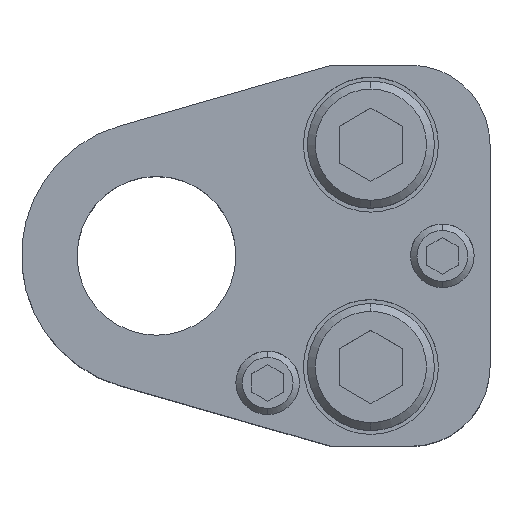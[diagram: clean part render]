
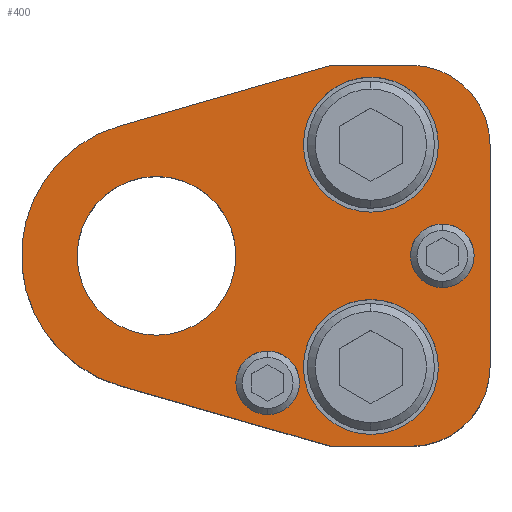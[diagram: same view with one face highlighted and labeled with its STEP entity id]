
A CAD part, top view. The second image highlights one B-rep face of the part: STEP entity #400.
In plain terms, the highlighted planar face has unit normal (0, 0, 1).
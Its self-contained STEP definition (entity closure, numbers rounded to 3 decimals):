
#192=FACE_BOUND('',#715,.T.);
#193=FACE_BOUND('',#716,.T.);
#194=FACE_BOUND('',#717,.T.);
#195=FACE_BOUND('',#718,.T.);
#196=FACE_BOUND('',#719,.T.);
#197=FACE_BOUND('',#720,.T.);
#246=CIRCLE('',#2264,17.);
#248=CIRCLE('',#2269,10.);
#250=CIRCLE('',#2273,10.);
#252=CIRCLE('',#2278,4.);
#254=CIRCLE('',#2281,4.);
#256=CIRCLE('',#2284,4.);
#258=CIRCLE('',#2287,4.);
#268=CIRCLE('',#2302,8.5);
#269=CIRCLE('',#2303,8.5);
#270=CIRCLE('',#2304,8.5);
#271=CIRCLE('',#2305,8.5);
#272=CIRCLE('',#2306,10.);
#273=CIRCLE('',#2307,10.);
#400=ADVANCED_FACE('',(#192,#193,#194,#195,#196,#197),#512,.T.);
#512=PLANE('',#2308);
#715=EDGE_LOOP('',(#1019,#1020,#1021,#1022,#1023,#1024,#1025,#1026));
#716=EDGE_LOOP('',(#1027,#1028));
#717=EDGE_LOOP('',(#1029,#1030));
#718=EDGE_LOOP('',(#1031,#1032));
#719=EDGE_LOOP('',(#1033,#1034));
#720=EDGE_LOOP('',(#1035,#1036));
#1019=ORIENTED_EDGE('',*,*,#1662,.T.);
#1020=ORIENTED_EDGE('',*,*,#1666,.T.);
#1021=ORIENTED_EDGE('',*,*,#1669,.T.);
#1022=ORIENTED_EDGE('',*,*,#1672,.T.);
#1023=ORIENTED_EDGE('',*,*,#1675,.T.);
#1024=ORIENTED_EDGE('',*,*,#1678,.T.);
#1025=ORIENTED_EDGE('',*,*,#1681,.T.);
#1026=ORIENTED_EDGE('',*,*,#1684,.T.);
#1027=ORIENTED_EDGE('',*,*,#1709,.F.);
#1028=ORIENTED_EDGE('',*,*,#1710,.F.);
#1029=ORIENTED_EDGE('',*,*,#1711,.F.);
#1030=ORIENTED_EDGE('',*,*,#1712,.F.);
#1031=ORIENTED_EDGE('',*,*,#1695,.F.);
#1032=ORIENTED_EDGE('',*,*,#1691,.F.);
#1033=ORIENTED_EDGE('',*,*,#1689,.F.);
#1034=ORIENTED_EDGE('',*,*,#1685,.F.);
#1035=ORIENTED_EDGE('',*,*,#1713,.T.);
#1036=ORIENTED_EDGE('',*,*,#1714,.T.);
#1452=VERTEX_POINT('',#3298);
#1453=VERTEX_POINT('',#3300);
#1456=VERTEX_POINT('',#3307);
#1458=VERTEX_POINT('',#3313);
#1460=VERTEX_POINT('',#3319);
#1462=VERTEX_POINT('',#3325);
#1464=VERTEX_POINT('',#3331);
#1466=VERTEX_POINT('',#3337);
#1467=VERTEX_POINT('',#3345);
#1468=VERTEX_POINT('',#3346);
#1471=VERTEX_POINT('',#3357);
#1472=VERTEX_POINT('',#3358);
#1483=VERTEX_POINT('',#3393);
#1484=VERTEX_POINT('',#3394);
#1485=VERTEX_POINT('',#3397);
#1486=VERTEX_POINT('',#3398);
#1487=VERTEX_POINT('',#3401);
#1488=VERTEX_POINT('',#3402);
#1662=EDGE_CURVE('',#1453,#1452,#246,.T.);
#1666=EDGE_CURVE('',#1452,#1456,#1940,.T.);
#1669=EDGE_CURVE('',#1456,#1458,#1943,.T.);
#1672=EDGE_CURVE('',#1458,#1460,#248,.T.);
#1675=EDGE_CURVE('',#1460,#1462,#1947,.T.);
#1678=EDGE_CURVE('',#1462,#1464,#250,.T.);
#1681=EDGE_CURVE('',#1464,#1466,#1951,.T.);
#1684=EDGE_CURVE('',#1466,#1453,#1954,.T.);
#1685=EDGE_CURVE('',#1467,#1468,#252,.T.);
#1689=EDGE_CURVE('',#1468,#1467,#254,.T.);
#1691=EDGE_CURVE('',#1471,#1472,#256,.T.);
#1695=EDGE_CURVE('',#1472,#1471,#258,.T.);
#1709=EDGE_CURVE('',#1483,#1484,#268,.T.);
#1710=EDGE_CURVE('',#1484,#1483,#269,.T.);
#1711=EDGE_CURVE('',#1485,#1486,#270,.T.);
#1712=EDGE_CURVE('',#1486,#1485,#271,.T.);
#1713=EDGE_CURVE('',#1487,#1488,#272,.T.);
#1714=EDGE_CURVE('',#1488,#1487,#273,.T.);
#1940=LINE('',#3308,#2104);
#1943=LINE('',#3314,#2107);
#1947=LINE('',#3326,#2111);
#1951=LINE('',#3338,#2115);
#1954=LINE('',#3342,#2118);
#2104=VECTOR('',#2628,1.);
#2107=VECTOR('',#2633,1.);
#2111=VECTOR('',#2645,1.);
#2115=VECTOR('',#2657,1.);
#2118=VECTOR('',#2662,1.);
#2264=AXIS2_PLACEMENT_3D('',#3299,#2620,#2621);
#2269=AXIS2_PLACEMENT_3D('',#3320,#2638,#2639);
#2273=AXIS2_PLACEMENT_3D('',#3332,#2650,#2651);
#2278=AXIS2_PLACEMENT_3D('',#3344,#2665,#2666);
#2281=AXIS2_PLACEMENT_3D('',#3353,#2673,#2674);
#2284=AXIS2_PLACEMENT_3D('',#3356,#2679,#2680);
#2287=AXIS2_PLACEMENT_3D('',#3365,#2687,#2688);
#2302=AXIS2_PLACEMENT_3D('',#3392,#2721,#2722);
#2303=AXIS2_PLACEMENT_3D('',#3395,#2723,#2724);
#2304=AXIS2_PLACEMENT_3D('',#3396,#2725,#2726);
#2305=AXIS2_PLACEMENT_3D('',#3399,#2727,#2728);
#2306=AXIS2_PLACEMENT_3D('',#3400,#2729,#2730);
#2307=AXIS2_PLACEMENT_3D('',#3403,#2731,#2732);
#2308=AXIS2_PLACEMENT_3D('',#3404,#2733,#2734);
#2620=DIRECTION('',(0.,0.,1.));
#2621=DIRECTION('',(0.,1.,0.));
#2628=DIRECTION('',(0.961,-0.276,0.));
#2633=DIRECTION('',(1.,0.,0.));
#2638=DIRECTION('',(0.,0.,1.));
#2639=DIRECTION('',(-0.707,0.707,0.));
#2645=DIRECTION('',(0.,1.,0.));
#2650=DIRECTION('',(0.,0.,1.));
#2651=DIRECTION('',(-0.707,-0.707,0.));
#2657=DIRECTION('',(-1.,0.,0.));
#2662=DIRECTION('',(-0.961,-0.276,0.));
#2665=DIRECTION('',(0.,0.,1.));
#2666=DIRECTION('',(1.,0.,0.));
#2673=DIRECTION('',(0.,0.,1.));
#2674=DIRECTION('',(-1.,0.,0.));
#2679=DIRECTION('',(0.,0.,1.));
#2680=DIRECTION('',(1.,0.,0.));
#2687=DIRECTION('',(0.,0.,1.));
#2688=DIRECTION('',(-1.,0.,0.));
#2721=DIRECTION('',(0.,0.,1.));
#2722=DIRECTION('',(1.,0.,0.));
#2723=DIRECTION('',(0.,0.,1.));
#2724=DIRECTION('',(-1.,0.,0.));
#2725=DIRECTION('',(0.,0.,1.));
#2726=DIRECTION('',(1.,0.,0.));
#2727=DIRECTION('',(0.,0.,1.));
#2728=DIRECTION('',(-1.,0.,0.));
#2729=DIRECTION('',(0.,0.,-1.));
#2730=DIRECTION('',(-1.,0.,0.));
#2731=DIRECTION('',(0.,0.,-1.));
#2732=DIRECTION('',(1.,0.,0.));
#2733=DIRECTION('',(0.,0.,1.));
#2734=DIRECTION('',(0.961,0.276,0.));
#3298=CARTESIAN_POINT('',(-4.69,-16.34,30.));
#3299=CARTESIAN_POINT('',(0.,0.,30.));
#3300=CARTESIAN_POINT('',(-4.69,16.34,30.));
#3307=CARTESIAN_POINT('',(22.,-24.,30.));
#3308=CARTESIAN_POINT('',(22.,-24.,30.));
#3313=CARTESIAN_POINT('',(32.,-24.,30.));
#3314=CARTESIAN_POINT('',(22.,-24.,30.));
#3319=CARTESIAN_POINT('',(42.,-14.,30.));
#3320=CARTESIAN_POINT('',(32.,-14.,30.));
#3325=CARTESIAN_POINT('',(42.,14.,30.));
#3326=CARTESIAN_POINT('',(42.,-14.,30.));
#3331=CARTESIAN_POINT('',(32.,24.,30.));
#3332=CARTESIAN_POINT('',(32.,14.,30.));
#3337=CARTESIAN_POINT('',(22.,24.,30.));
#3338=CARTESIAN_POINT('',(22.,24.,30.));
#3342=CARTESIAN_POINT('',(22.,24.,30.));
#3344=CARTESIAN_POINT('',(14.,-16.,30.));
#3345=CARTESIAN_POINT('',(14.,-12.,30.));
#3346=CARTESIAN_POINT('',(14.,-20.,30.));
#3353=CARTESIAN_POINT('',(14.,-16.,30.));
#3356=CARTESIAN_POINT('',(36.,0.,30.));
#3357=CARTESIAN_POINT('',(36.,4.,30.));
#3358=CARTESIAN_POINT('',(36.,-4.,30.));
#3365=CARTESIAN_POINT('',(36.,0.,30.));
#3392=CARTESIAN_POINT('',(27.,-14.,30.));
#3393=CARTESIAN_POINT('',(27.,-5.5,30.));
#3394=CARTESIAN_POINT('',(27.,-22.5,30.));
#3395=CARTESIAN_POINT('',(27.,-14.,30.));
#3396=CARTESIAN_POINT('',(27.,14.,30.));
#3397=CARTESIAN_POINT('',(27.,22.5,30.));
#3398=CARTESIAN_POINT('',(27.,5.5,30.));
#3399=CARTESIAN_POINT('',(27.,14.,30.));
#3400=CARTESIAN_POINT('',(0.,0.,30.));
#3401=CARTESIAN_POINT('',(0.,10.,30.));
#3402=CARTESIAN_POINT('',(0.,-10.,30.));
#3403=CARTESIAN_POINT('',(0.,0.,30.));
#3404=CARTESIAN_POINT('',(-4.69,16.34,30.));
